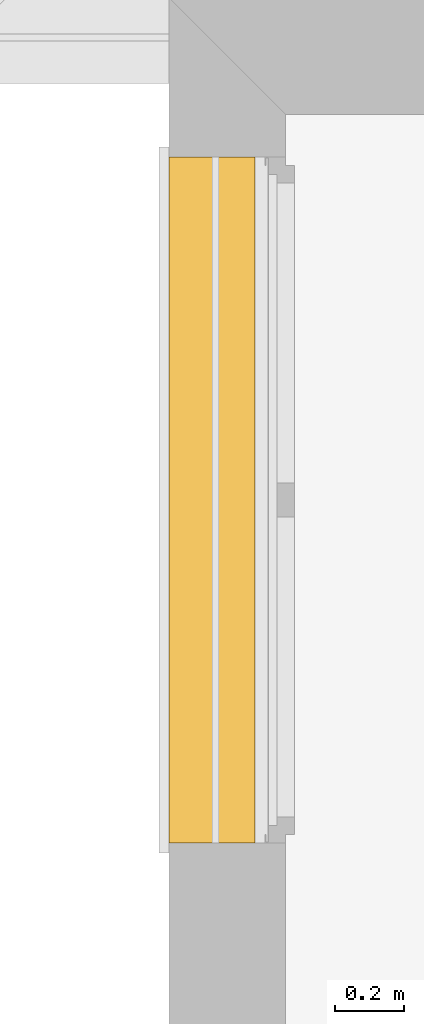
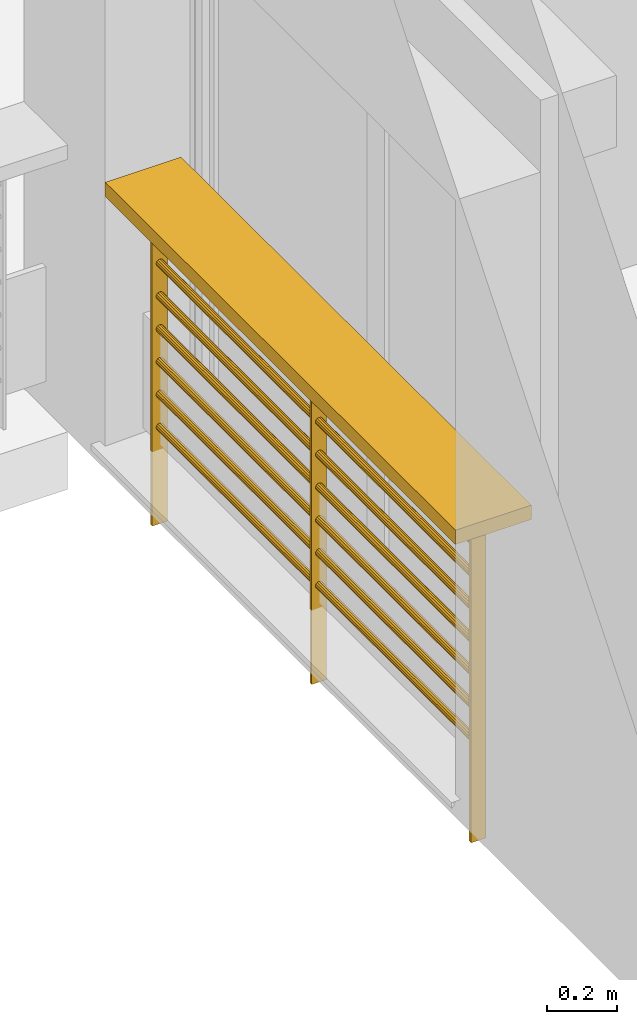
# One storey, part 99 of 164: 1 railing.
"""IFC2X3 building model written with IfcOpenShell, lengths in millimetres."""

from ifc_helpers import new_model, entity, si_unit, converted_unit, derived_unit, money_unit, direction, frame, origin_with_axes, place, context, subcontext, project, spatial, faceted_brep, source, transform, mapped, type_object, element, save


model = new_model("IFC2X3")

# Units and contexts
model_context = context("Model", 3, precision=0.01, world=origin_with_axes(), true_north=direction((0.0, 1.0)))
body_context = subcontext(model_context, "Body", "Model", "MODEL_VIEW")
ifc_project = project(units=[si_unit("LENGTHUNIT", "METRE", prefix="MILLI"), si_unit("AREAUNIT", "SQUARE_METRE"), si_unit("VOLUMEUNIT", "CUBIC_METRE"), converted_unit("PLANEANGLEUNIT", "DEGREE", entity("IfcPlaneAngleMeasure", 0.0174532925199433), si_unit("PLANEANGLEUNIT", "RADIAN"), dimensions=[0, 0, 0, 0, 0, 0, 0]), money_unit("USD"), converted_unit("TIMEUNIT", "Year", entity("IfcTimeMeasure", 31557600.0), si_unit("TIMEUNIT", "SECOND"), dimensions=[0, 0, 1, 0, 0, 0, 0]), si_unit("MASSUNIT", "GRAM", prefix="KILO"), si_unit("THERMODYNAMICTEMPERATUREUNIT", "DEGREE_CELSIUS"), si_unit("LUMINOUSINTENSITYUNIT", "LUMEN"), si_unit("ENERGYUNIT", "JOULE", prefix="MEGA"), derived_unit("THERMALCONDUCTANCEUNIT", [(si_unit("POWERUNIT", "WATT"), 1), (si_unit("LENGTHUNIT", "METRE"), -1), (si_unit("THERMODYNAMICTEMPERATUREUNIT", "KELVIN"), -1)]), derived_unit("SPECIFICHEATCAPACITYUNIT", [(si_unit("ENERGYUNIT", "JOULE"), 1), (si_unit("MASSUNIT", "GRAM", prefix="KILO"), -1), (si_unit("THERMODYNAMICTEMPERATUREUNIT", "KELVIN"), -1)]), derived_unit("MASSDENSITYUNIT", [(si_unit("MASSUNIT", "GRAM", prefix="KILO"), 1), (si_unit("VOLUMEUNIT", "CUBIC_METRE"), -1)])], contexts=[model_context])

# Site, building, storey
site_placement = place(None, origin_with_axes())
site = spatial("IfcSite", under=ifc_project, at=site_placement, Name="Site", CompositionType="ELEMENT")
building_placement = place(site_placement, origin_with_axes())
building = spatial("IfcBuilding", under=site, at=building_placement, Name="Bâtiment", CompositionType="ELEMENT")
storey_placement = place(building_placement, frame((0.0, 0.0, 5750.0), z_axis=(0.0, 0.0, 1.0), x_axis=(1.0, 0.0, 0.0)))
storey = spatial("IfcBuildingStorey", under=building, at=storey_placement, Name="Etage1", CompositionType="ELEMENT", Elevation=5750.0)

# Railing
railing_type = type_object("IfcRailingType", Name="Cadre avec câble 01 20", PredefinedType="NOTDEFINED")
shared_shape = source(origin_with_axes(), body_context, "Body", "Brep", [
    faceted_brep([(0.0, 125.0, 950.0), (0.0, -125.0, 950.0), (0.0, -125.0, 1000.0), (0.0, 125.0, 1000.0), (1999.999999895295, 125.0, 950.0), (1999.999999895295, -125.0, 950.0), (1999.999999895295, -125.0, 1000.0), (1999.999999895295, 125.0, 1000.0)], [[[0, 1, 2, 3]], [[0, 4, 5, 1]], [[1, 5, 6, 2]], [[3, 2, 6, 7]], [[4, 0, 3, 7]], [[5, 4, 7, 6]]]),
    faceted_brep([(84.99999999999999, -25.0, -176.0), (95.0, -25.0, -176.0), (95.0, -25.0, 950.0), (84.99999999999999, -25.0, 950.0), (84.99999999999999, 25.0, -176.0), (95.0, 25.0, -176.0), (95.0, 25.0, 950.0), (84.99999999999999, 25.0, 950.0)], [[[0, 1, 2, 3]], [[0, 4, 5, 1]], [[1, 5, 6, 2]], [[3, 2, 6, 7]], [[4, 0, 3, 7]], [[5, 4, 7, 6]]]),
    faceted_brep([(994.9999999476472, -25.0, -176.0), (1004.999999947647, -25.0, -176.0), (1004.999999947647, -25.0, 950.0), (994.9999999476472, -25.0, 950.0), (994.9999999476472, 25.0, -176.0), (1004.999999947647, 25.0, -176.0), (1004.999999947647, 25.0, 950.0), (994.9999999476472, 25.0, 950.0)], [[[0, 1, 2, 3]], [[0, 4, 5, 1]], [[1, 5, 6, 2]], [[3, 2, 6, 7]], [[4, 0, 3, 7]], [[5, 4, 7, 6]]]),
    faceted_brep([(1904.999999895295, -25.0, -176.0), (1914.999999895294, -25.0, -176.0), (1914.999999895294, -25.0, 950.0), (1904.999999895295, -25.0, 950.0), (1904.999999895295, 25.0, -176.0), (1914.999999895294, 25.0, -176.0), (1914.999999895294, 25.0, 950.0), (1904.999999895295, 25.0, 950.0)], [[[0, 1, 2, 3]], [[0, 4, 5, 1]], [[1, 5, 6, 2]], [[3, 2, 6, 7]], [[4, 0, 3, 7]], [[5, 4, 7, 6]]]),
    faceted_brep([(994.9999999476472, 10.82531754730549, 168.7500000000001), (994.9999999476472, 12.5, 162.5000000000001), (95.0, 12.5, 162.5), (95.0, 10.82531754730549, 168.75), (994.9999999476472, 10.82531754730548, 156.2500000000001), (994.9999999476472, 6.250000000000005, 173.3253175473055), (994.9999999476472, 0.0, 175.0000000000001), (994.9999999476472, -6.249999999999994, 173.3253175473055), (994.9999999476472, -10.82531754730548, 168.7500000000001), (994.9999999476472, -12.5, 162.5000000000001), (994.9999999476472, -10.82531754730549, 156.2500000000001), (994.9999999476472, -6.250000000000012, 151.6746824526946), (994.9999999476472, 0.0, 150.0000000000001), (994.9999999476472, 6.249999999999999, 151.6746824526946), (95.0, 10.82531754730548, 156.25), (95.0, 6.249999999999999, 151.6746824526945), (95.0, 0.0, 150.0), (95.0, -6.250000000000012, 151.6746824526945), (95.0, -10.82531754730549, 156.25), (95.0, -12.5, 162.5), (95.0, -10.82531754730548, 168.75), (95.0, -6.249999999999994, 173.3253175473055), (95.0, 0.0, 175.0), (95.0, 6.250000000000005, 173.3253175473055)], [[[0, 1, 2, 3]], [[4, 1, 0, 5, 6, 7, 8, 9, 10, 11, 12, 13]], [[1, 4, 14, 2]], [[3, 2, 14, 15, 16, 17, 18, 19, 20, 21, 22, 23]], [[5, 0, 3, 23]], [[6, 5, 23, 22]], [[7, 6, 22, 21]], [[8, 7, 21, 20]], [[9, 8, 20, 19]], [[10, 9, 19, 18]], [[11, 10, 18, 17]], [[12, 11, 17, 16]], [[13, 12, 16, 15]], [[4, 13, 15, 14]]]),
    faceted_brep([(1004.999999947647, 10.82531754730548, 156.2500000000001), (1004.999999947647, 12.5, 162.5000000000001), (1904.999999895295, 12.5, 162.5000000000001), (1904.999999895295, 10.82531754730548, 156.2500000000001), (1004.999999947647, 10.82531754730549, 168.7500000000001), (1004.999999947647, 6.249999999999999, 151.6746824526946), (1004.999999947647, 0.0, 150.0000000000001), (1004.999999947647, -6.250000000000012, 151.6746824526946), (1004.999999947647, -10.82531754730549, 156.2500000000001), (1004.999999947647, -12.5, 162.5000000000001), (1004.999999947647, -10.82531754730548, 168.7500000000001), (1004.999999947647, -6.249999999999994, 173.3253175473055), (1004.999999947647, 0.0, 175.0000000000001), (1004.999999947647, 6.250000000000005, 173.3253175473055), (1904.999999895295, 10.82531754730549, 168.7500000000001), (1904.999999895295, 6.250000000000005, 173.3253175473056), (1904.999999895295, 0.0, 175.0000000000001), (1904.999999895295, -6.249999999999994, 173.3253175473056), (1904.999999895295, -10.82531754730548, 168.7500000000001), (1904.999999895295, -12.5, 162.5000000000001), (1904.999999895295, -10.82531754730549, 156.2500000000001), (1904.999999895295, -6.250000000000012, 151.6746824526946), (1904.999999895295, 0.0, 150.0000000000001), (1904.999999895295, 6.249999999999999, 151.6746824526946)], [[[0, 1, 2, 3]], [[4, 1, 0, 5, 6, 7, 8, 9, 10, 11, 12, 13]], [[1, 4, 14, 2]], [[3, 2, 14, 15, 16, 17, 18, 19, 20, 21, 22, 23]], [[5, 0, 3, 23]], [[6, 5, 23, 22]], [[7, 6, 22, 21]], [[8, 7, 21, 20]], [[9, 8, 20, 19]], [[10, 9, 19, 18]], [[11, 10, 18, 17]], [[12, 11, 17, 16]], [[13, 12, 16, 15]], [[4, 13, 15, 14]]]),
    faceted_brep([(994.9999999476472, 10.82531754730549, 283.0357142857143), (994.9999999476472, 12.5, 276.7857142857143), (95.0, 12.5, 276.7857142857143), (95.0, 10.82531754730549, 283.0357142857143), (994.9999999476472, 10.82531754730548, 270.5357142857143), (994.9999999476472, 6.250000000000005, 287.6110318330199), (994.9999999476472, 0.0, 289.2857142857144), (994.9999999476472, -6.249999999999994, 287.6110318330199), (994.9999999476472, -10.82531754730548, 283.0357142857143), (994.9999999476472, -12.5, 276.7857142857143), (994.9999999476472, -10.82531754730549, 270.5357142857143), (994.9999999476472, -6.250000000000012, 265.9603967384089), (994.9999999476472, 0.0, 264.2857142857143), (994.9999999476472, 6.249999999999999, 265.9603967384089), (95.0, 10.82531754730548, 270.5357142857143), (95.0, 6.249999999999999, 265.9603967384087), (95.0, 0.0, 264.2857142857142), (95.0, -6.250000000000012, 265.9603967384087), (95.0, -10.82531754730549, 270.5357142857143), (95.0, -12.5, 276.7857142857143), (95.0, -10.82531754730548, 283.0357142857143), (95.0, -6.249999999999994, 287.6110318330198), (95.0, 0.0, 289.2857142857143), (95.0, 6.250000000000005, 287.6110318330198)], [[[0, 1, 2, 3]], [[4, 1, 0, 5, 6, 7, 8, 9, 10, 11, 12, 13]], [[1, 4, 14, 2]], [[3, 2, 14, 15, 16, 17, 18, 19, 20, 21, 22, 23]], [[5, 0, 3, 23]], [[6, 5, 23, 22]], [[7, 6, 22, 21]], [[8, 7, 21, 20]], [[9, 8, 20, 19]], [[10, 9, 19, 18]], [[11, 10, 18, 17]], [[12, 11, 17, 16]], [[13, 12, 16, 15]], [[4, 13, 15, 14]]]),
    faceted_brep([(1004.999999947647, 10.82531754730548, 270.5357142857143), (1004.999999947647, 12.5, 276.7857142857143), (1904.999999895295, 12.5, 276.7857142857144), (1904.999999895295, 10.82531754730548, 270.5357142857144), (1004.999999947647, 10.82531754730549, 283.0357142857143), (1004.999999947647, 6.249999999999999, 265.9603967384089), (1004.999999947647, 0.0, 264.2857142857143), (1004.999999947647, -6.250000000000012, 265.9603967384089), (1004.999999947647, -10.82531754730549, 270.5357142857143), (1004.999999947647, -12.5, 276.7857142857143), (1004.999999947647, -10.82531754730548, 283.0357142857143), (1004.999999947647, -6.249999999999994, 287.6110318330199), (1004.999999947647, 0.0, 289.2857142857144), (1004.999999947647, 6.250000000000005, 287.6110318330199), (1904.999999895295, 10.82531754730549, 283.0357142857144), (1904.999999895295, 6.250000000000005, 287.6110318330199), (1904.999999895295, 0.0, 289.2857142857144), (1904.999999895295, -6.249999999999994, 287.6110318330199), (1904.999999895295, -10.82531754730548, 283.0357142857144), (1904.999999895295, -12.5, 276.7857142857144), (1904.999999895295, -10.82531754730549, 270.5357142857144), (1904.999999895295, -6.250000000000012, 265.9603967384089), (1904.999999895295, 0.0, 264.2857142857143), (1904.999999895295, 6.249999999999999, 265.9603967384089)], [[[0, 1, 2, 3]], [[4, 1, 0, 5, 6, 7, 8, 9, 10, 11, 12, 13]], [[1, 4, 14, 2]], [[3, 2, 14, 15, 16, 17, 18, 19, 20, 21, 22, 23]], [[5, 0, 3, 23]], [[6, 5, 23, 22]], [[7, 6, 22, 21]], [[8, 7, 21, 20]], [[9, 8, 20, 19]], [[10, 9, 19, 18]], [[11, 10, 18, 17]], [[12, 11, 17, 16]], [[13, 12, 16, 15]], [[4, 13, 15, 14]]]),
    faceted_brep([(994.9999999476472, 10.82531754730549, 397.3214285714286), (994.9999999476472, 12.5, 391.0714285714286), (95.0, 12.5, 391.0714285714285), (95.0, 10.82531754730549, 397.3214285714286), (994.9999999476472, 10.82531754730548, 384.8214285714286), (994.9999999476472, 6.250000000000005, 401.896746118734), (994.9999999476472, 0.0, 403.5714285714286), (994.9999999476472, -6.249999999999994, 401.896746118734), (994.9999999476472, -10.82531754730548, 397.3214285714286), (994.9999999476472, -12.5, 391.0714285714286), (994.9999999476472, -10.82531754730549, 384.8214285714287), (994.9999999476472, -6.250000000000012, 380.2461110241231), (994.9999999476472, 0.0, 378.5714285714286), (994.9999999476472, 6.249999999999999, 380.2461110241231), (95.0, 10.82531754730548, 384.8214285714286), (95.0, 6.249999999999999, 380.2461110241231), (95.0, 0.0, 378.5714285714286), (95.0, -6.250000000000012, 380.2461110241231), (95.0, -10.82531754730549, 384.8214285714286), (95.0, -12.5, 391.0714285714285), (95.0, -10.82531754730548, 397.3214285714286), (95.0, -6.249999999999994, 401.896746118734), (95.0, 0.0, 403.5714285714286), (95.0, 6.250000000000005, 401.896746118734)], [[[0, 1, 2, 3]], [[4, 1, 0, 5, 6, 7, 8, 9, 10, 11, 12, 13]], [[1, 4, 14, 2]], [[3, 2, 14, 15, 16, 17, 18, 19, 20, 21, 22, 23]], [[5, 0, 3, 23]], [[6, 5, 23, 22]], [[7, 6, 22, 21]], [[8, 7, 21, 20]], [[9, 8, 20, 19]], [[10, 9, 19, 18]], [[11, 10, 18, 17]], [[12, 11, 17, 16]], [[13, 12, 16, 15]], [[4, 13, 15, 14]]]),
    faceted_brep([(1004.999999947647, 10.82531754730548, 384.8214285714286), (1004.999999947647, 12.5, 391.0714285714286), (1904.999999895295, 12.5, 391.0714285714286), (1904.999999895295, 10.82531754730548, 384.8214285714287), (1004.999999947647, 10.82531754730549, 397.3214285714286), (1004.999999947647, 6.249999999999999, 380.2461110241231), (1004.999999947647, 0.0, 378.5714285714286), (1004.999999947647, -6.250000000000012, 380.2461110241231), (1004.999999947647, -10.82531754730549, 384.8214285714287), (1004.999999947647, -12.5, 391.0714285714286), (1004.999999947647, -10.82531754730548, 397.3214285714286), (1004.999999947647, -6.249999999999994, 401.896746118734), (1004.999999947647, 0.0, 403.5714285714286), (1004.999999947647, 6.250000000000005, 401.896746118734), (1904.999999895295, 10.82531754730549, 397.3214285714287), (1904.999999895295, 6.250000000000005, 401.8967461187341), (1904.999999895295, 0.0, 403.5714285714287), (1904.999999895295, -6.249999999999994, 401.8967461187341), (1904.999999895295, -10.82531754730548, 397.3214285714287), (1904.999999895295, -12.5, 391.0714285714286), (1904.999999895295, -10.82531754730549, 384.8214285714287), (1904.999999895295, -6.250000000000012, 380.2461110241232), (1904.999999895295, 0.0, 378.5714285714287), (1904.999999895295, 6.249999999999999, 380.2461110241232)], [[[0, 1, 2, 3]], [[4, 1, 0, 5, 6, 7, 8, 9, 10, 11, 12, 13]], [[1, 4, 14, 2]], [[3, 2, 14, 15, 16, 17, 18, 19, 20, 21, 22, 23]], [[5, 0, 3, 23]], [[6, 5, 23, 22]], [[7, 6, 22, 21]], [[8, 7, 21, 20]], [[9, 8, 20, 19]], [[10, 9, 19, 18]], [[11, 10, 18, 17]], [[12, 11, 17, 16]], [[13, 12, 16, 15]], [[4, 13, 15, 14]]]),
    faceted_brep([(994.9999999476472, 10.82531754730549, 511.6071428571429), (994.9999999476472, 12.5, 505.3571428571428), (95.0, 12.5, 505.3571428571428), (95.0, 10.82531754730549, 511.6071428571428), (994.9999999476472, 10.82531754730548, 499.1071428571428), (994.9999999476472, 6.250000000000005, 516.1824604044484), (994.9999999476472, 0.0, 517.8571428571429), (994.9999999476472, -6.249999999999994, 516.1824604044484), (994.9999999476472, -10.82531754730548, 511.6071428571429), (994.9999999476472, -12.5, 505.3571428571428), (994.9999999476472, -10.82531754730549, 499.1071428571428), (994.9999999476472, -6.250000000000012, 494.5318253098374), (994.9999999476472, 0.0, 492.8571428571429), (994.9999999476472, 6.249999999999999, 494.5318253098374), (95.0, 10.82531754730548, 499.1071428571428), (95.0, 6.249999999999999, 494.5318253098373), (95.0, 0.0, 492.8571428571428), (95.0, -6.250000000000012, 494.5318253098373), (95.0, -10.82531754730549, 499.1071428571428), (95.0, -12.5, 505.3571428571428), (95.0, -10.82531754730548, 511.6071428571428), (95.0, -6.249999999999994, 516.1824604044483), (95.0, 0.0, 517.8571428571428), (95.0, 6.250000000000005, 516.1824604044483)], [[[0, 1, 2, 3]], [[4, 1, 0, 5, 6, 7, 8, 9, 10, 11, 12, 13]], [[1, 4, 14, 2]], [[3, 2, 14, 15, 16, 17, 18, 19, 20, 21, 22, 23]], [[5, 0, 3, 23]], [[6, 5, 23, 22]], [[7, 6, 22, 21]], [[8, 7, 21, 20]], [[9, 8, 20, 19]], [[10, 9, 19, 18]], [[11, 10, 18, 17]], [[12, 11, 17, 16]], [[13, 12, 16, 15]], [[4, 13, 15, 14]]]),
    faceted_brep([(1004.999999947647, 10.82531754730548, 499.1071428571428), (1004.999999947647, 12.5, 505.3571428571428), (1904.999999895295, 12.5, 505.3571428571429), (1904.999999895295, 10.82531754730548, 499.1071428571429), (1004.999999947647, 10.82531754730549, 511.6071428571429), (1004.999999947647, 6.249999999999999, 494.5318253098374), (1004.999999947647, 0.0, 492.8571428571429), (1004.999999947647, -6.250000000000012, 494.5318253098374), (1004.999999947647, -10.82531754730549, 499.1071428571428), (1004.999999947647, -12.5, 505.3571428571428), (1004.999999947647, -10.82531754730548, 511.6071428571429), (1004.999999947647, -6.249999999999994, 516.1824604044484), (1004.999999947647, 0.0, 517.8571428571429), (1004.999999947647, 6.250000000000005, 516.1824604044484), (1904.999999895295, 10.82531754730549, 511.6071428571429), (1904.999999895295, 6.250000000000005, 516.1824604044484), (1904.999999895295, 0.0, 517.8571428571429), (1904.999999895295, -6.249999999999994, 516.1824604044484), (1904.999999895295, -10.82531754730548, 511.6071428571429), (1904.999999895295, -12.5, 505.3571428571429), (1904.999999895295, -10.82531754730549, 499.1071428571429), (1904.999999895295, -6.250000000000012, 494.5318253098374), (1904.999999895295, 0.0, 492.8571428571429), (1904.999999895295, 6.249999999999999, 494.5318253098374)], [[[0, 1, 2, 3]], [[4, 1, 0, 5, 6, 7, 8, 9, 10, 11, 12, 13]], [[1, 4, 14, 2]], [[3, 2, 14, 15, 16, 17, 18, 19, 20, 21, 22, 23]], [[5, 0, 3, 23]], [[6, 5, 23, 22]], [[7, 6, 22, 21]], [[8, 7, 21, 20]], [[9, 8, 20, 19]], [[10, 9, 19, 18]], [[11, 10, 18, 17]], [[12, 11, 17, 16]], [[13, 12, 16, 15]], [[4, 13, 15, 14]]]),
    faceted_brep([(994.9999999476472, 10.82531754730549, 625.8928571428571), (994.9999999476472, 12.5, 619.6428571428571), (95.0, 12.5, 619.642857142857), (95.0, 10.82531754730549, 625.892857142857), (994.9999999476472, 10.82531754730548, 613.3928571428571), (994.9999999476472, 6.250000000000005, 630.4681746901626), (994.9999999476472, 0.0, 632.1428571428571), (994.9999999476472, -6.249999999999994, 630.4681746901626), (994.9999999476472, -10.82531754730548, 625.8928571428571), (994.9999999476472, -12.5, 619.6428571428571), (994.9999999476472, -10.82531754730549, 613.3928571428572), (994.9999999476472, -6.250000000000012, 608.8175395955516), (994.9999999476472, 0.0, 607.1428571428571), (994.9999999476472, 6.249999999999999, 608.8175395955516), (95.0, 10.82531754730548, 613.3928571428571), (95.0, 6.249999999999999, 608.8175395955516), (95.0, 0.0, 607.1428571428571), (95.0, -6.250000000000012, 608.8175395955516), (95.0, -10.82531754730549, 613.3928571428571), (95.0, -12.5, 619.642857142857), (95.0, -10.82531754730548, 625.892857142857), (95.0, -6.249999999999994, 630.4681746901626), (95.0, 0.0, 632.1428571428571), (95.0, 6.250000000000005, 630.4681746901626)], [[[0, 1, 2, 3]], [[4, 1, 0, 5, 6, 7, 8, 9, 10, 11, 12, 13]], [[1, 4, 14, 2]], [[3, 2, 14, 15, 16, 17, 18, 19, 20, 21, 22, 23]], [[5, 0, 3, 23]], [[6, 5, 23, 22]], [[7, 6, 22, 21]], [[8, 7, 21, 20]], [[9, 8, 20, 19]], [[10, 9, 19, 18]], [[11, 10, 18, 17]], [[12, 11, 17, 16]], [[13, 12, 16, 15]], [[4, 13, 15, 14]]]),
    faceted_brep([(1004.999999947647, 10.82531754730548, 613.3928571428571), (1004.999999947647, 12.5, 619.6428571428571), (1904.999999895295, 12.5, 619.6428571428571), (1904.999999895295, 10.82531754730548, 613.3928571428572), (1004.999999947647, 10.82531754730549, 625.8928571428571), (1004.999999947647, 6.249999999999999, 608.8175395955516), (1004.999999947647, 0.0, 607.1428571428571), (1004.999999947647, -6.250000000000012, 608.8175395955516), (1004.999999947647, -10.82531754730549, 613.3928571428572), (1004.999999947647, -12.5, 619.6428571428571), (1004.999999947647, -10.82531754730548, 625.8928571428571), (1004.999999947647, -6.249999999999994, 630.4681746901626), (1004.999999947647, 0.0, 632.1428571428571), (1004.999999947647, 6.250000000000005, 630.4681746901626), (1904.999999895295, 10.82531754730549, 625.8928571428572), (1904.999999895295, 6.250000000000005, 630.4681746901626), (1904.999999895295, 0.0, 632.1428571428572), (1904.999999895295, -6.249999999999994, 630.4681746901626), (1904.999999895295, -10.82531754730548, 625.8928571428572), (1904.999999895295, -12.5, 619.6428571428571), (1904.999999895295, -10.82531754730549, 613.3928571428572), (1904.999999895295, -6.250000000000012, 608.8175395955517), (1904.999999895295, 0.0, 607.1428571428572), (1904.999999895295, 6.249999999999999, 608.8175395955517)], [[[0, 1, 2, 3]], [[4, 1, 0, 5, 6, 7, 8, 9, 10, 11, 12, 13]], [[1, 4, 14, 2]], [[3, 2, 14, 15, 16, 17, 18, 19, 20, 21, 22, 23]], [[5, 0, 3, 23]], [[6, 5, 23, 22]], [[7, 6, 22, 21]], [[8, 7, 21, 20]], [[9, 8, 20, 19]], [[10, 9, 19, 18]], [[11, 10, 18, 17]], [[12, 11, 17, 16]], [[13, 12, 16, 15]], [[4, 13, 15, 14]]]),
    faceted_brep([(994.9999999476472, 10.82531754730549, 740.1785714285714), (994.9999999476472, 12.5, 733.9285714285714), (95.0, 12.5, 733.9285714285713), (95.0, 10.82531754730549, 740.1785714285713), (994.9999999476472, 10.82531754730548, 727.6785714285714), (994.9999999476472, 6.250000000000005, 744.7538889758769), (994.9999999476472, 0.0, 746.4285714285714), (994.9999999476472, -6.249999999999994, 744.7538889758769), (994.9999999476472, -10.82531754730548, 740.1785714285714), (994.9999999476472, -12.5, 733.9285714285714), (994.9999999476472, -10.82531754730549, 727.6785714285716), (994.9999999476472, -6.250000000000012, 723.1032538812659), (994.9999999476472, 0.0, 721.4285714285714), (994.9999999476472, 6.249999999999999, 723.1032538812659), (95.0, 10.82531754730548, 727.6785714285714), (95.0, 6.249999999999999, 723.1032538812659), (95.0, 0.0, 721.4285714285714), (95.0, -6.250000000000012, 723.1032538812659), (95.0, -10.82531754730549, 727.6785714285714), (95.0, -12.5, 733.9285714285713), (95.0, -10.82531754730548, 740.1785714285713), (95.0, -6.249999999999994, 744.7538889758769), (95.0, 0.0, 746.4285714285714), (95.0, 6.250000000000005, 744.7538889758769)], [[[0, 1, 2, 3]], [[4, 1, 0, 5, 6, 7, 8, 9, 10, 11, 12, 13]], [[1, 4, 14, 2]], [[3, 2, 14, 15, 16, 17, 18, 19, 20, 21, 22, 23]], [[5, 0, 3, 23]], [[6, 5, 23, 22]], [[7, 6, 22, 21]], [[8, 7, 21, 20]], [[9, 8, 20, 19]], [[10, 9, 19, 18]], [[11, 10, 18, 17]], [[12, 11, 17, 16]], [[13, 12, 16, 15]], [[4, 13, 15, 14]]]),
    faceted_brep([(1004.999999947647, 10.82531754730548, 727.6785714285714), (1004.999999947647, 12.5, 733.9285714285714), (1904.999999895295, 12.5, 733.9285714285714), (1904.999999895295, 10.82531754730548, 727.6785714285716), (1004.999999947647, 10.82531754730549, 740.1785714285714), (1004.999999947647, 6.249999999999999, 723.1032538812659), (1004.999999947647, 0.0, 721.4285714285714), (1004.999999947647, -6.250000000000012, 723.1032538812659), (1004.999999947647, -10.82531754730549, 727.6785714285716), (1004.999999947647, -12.5, 733.9285714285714), (1004.999999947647, -10.82531754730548, 740.1785714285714), (1004.999999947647, -6.249999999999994, 744.7538889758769), (1004.999999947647, 0.0, 746.4285714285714), (1004.999999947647, 6.250000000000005, 744.7538889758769), (1904.999999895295, 10.82531754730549, 740.1785714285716), (1904.999999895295, 6.250000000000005, 744.753888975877), (1904.999999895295, 0.0, 746.4285714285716), (1904.999999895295, -6.249999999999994, 744.753888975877), (1904.999999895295, -10.82531754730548, 740.1785714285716), (1904.999999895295, -12.5, 733.9285714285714), (1904.999999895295, -10.82531754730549, 727.6785714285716), (1904.999999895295, -6.250000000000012, 723.103253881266), (1904.999999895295, 0.0, 721.4285714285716), (1904.999999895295, 6.249999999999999, 723.103253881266)], [[[0, 1, 2, 3]], [[4, 1, 0, 5, 6, 7, 8, 9, 10, 11, 12, 13]], [[1, 4, 14, 2]], [[3, 2, 14, 15, 16, 17, 18, 19, 20, 21, 22, 23]], [[5, 0, 3, 23]], [[6, 5, 23, 22]], [[7, 6, 22, 21]], [[8, 7, 21, 20]], [[9, 8, 20, 19]], [[10, 9, 19, 18]], [[11, 10, 18, 17]], [[12, 11, 17, 16]], [[13, 12, 16, 15]], [[4, 13, 15, 14]]]),
    faceted_brep([(994.9999999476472, 10.82531754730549, 854.4642857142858), (994.9999999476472, 12.5, 848.2142857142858), (95.0, 12.5, 848.2142857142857), (95.0, 10.82531754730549, 854.4642857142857), (994.9999999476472, 10.82531754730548, 841.9642857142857), (994.9999999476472, 6.250000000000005, 859.0396032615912), (994.9999999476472, 0.0, 860.7142857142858), (994.9999999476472, -6.249999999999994, 859.0396032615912), (994.9999999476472, -10.82531754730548, 854.4642857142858), (994.9999999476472, -12.5, 848.2142857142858), (994.9999999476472, -10.82531754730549, 841.9642857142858), (994.9999999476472, -6.250000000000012, 837.3889681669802), (994.9999999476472, 0.0, 835.7142857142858), (994.9999999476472, 6.249999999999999, 837.3889681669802), (95.0, 10.82531754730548, 841.9642857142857), (95.0, 6.249999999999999, 837.3889681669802), (95.0, 0.0, 835.7142857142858), (95.0, -6.250000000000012, 837.3889681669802), (95.0, -10.82531754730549, 841.9642857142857), (95.0, -12.5, 848.2142857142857), (95.0, -10.82531754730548, 854.4642857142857), (95.0, -6.249999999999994, 859.0396032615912), (95.0, 0.0, 860.7142857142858), (95.0, 6.250000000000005, 859.0396032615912)], [[[0, 1, 2, 3]], [[4, 1, 0, 5, 6, 7, 8, 9, 10, 11, 12, 13]], [[1, 4, 14, 2]], [[3, 2, 14, 15, 16, 17, 18, 19, 20, 21, 22, 23]], [[5, 0, 3, 23]], [[6, 5, 23, 22]], [[7, 6, 22, 21]], [[8, 7, 21, 20]], [[9, 8, 20, 19]], [[10, 9, 19, 18]], [[11, 10, 18, 17]], [[12, 11, 17, 16]], [[13, 12, 16, 15]], [[4, 13, 15, 14]]]),
    faceted_brep([(1004.999999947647, 10.82531754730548, 841.9642857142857), (1004.999999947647, 12.5, 848.2142857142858), (1904.999999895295, 12.5, 848.2142857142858), (1904.999999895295, 10.82531754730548, 841.9642857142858), (1004.999999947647, 10.82531754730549, 854.4642857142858), (1004.999999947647, 6.249999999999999, 837.3889681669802), (1004.999999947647, 0.0, 835.7142857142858), (1004.999999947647, -6.250000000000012, 837.3889681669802), (1004.999999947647, -10.82531754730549, 841.9642857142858), (1004.999999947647, -12.5, 848.2142857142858), (1004.999999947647, -10.82531754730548, 854.4642857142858), (1004.999999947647, -6.249999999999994, 859.0396032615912), (1004.999999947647, 0.0, 860.7142857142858), (1004.999999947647, 6.250000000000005, 859.0396032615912), (1904.999999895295, 10.82531754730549, 854.4642857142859), (1904.999999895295, 6.250000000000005, 859.0396032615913), (1904.999999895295, 0.0, 860.7142857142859), (1904.999999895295, -6.249999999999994, 859.0396032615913), (1904.999999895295, -10.82531754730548, 854.4642857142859), (1904.999999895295, -12.5, 848.2142857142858), (1904.999999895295, -10.82531754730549, 841.9642857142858), (1904.999999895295, -6.250000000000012, 837.3889681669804), (1904.999999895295, 0.0, 835.7142857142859), (1904.999999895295, 6.249999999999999, 837.3889681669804)], [[[0, 1, 2, 3]], [[4, 1, 0, 5, 6, 7, 8, 9, 10, 11, 12, 13]], [[1, 4, 14, 2]], [[3, 2, 14, 15, 16, 17, 18, 19, 20, 21, 22, 23]], [[5, 0, 3, 23]], [[6, 5, 23, 22]], [[7, 6, 22, 21]], [[8, 7, 21, 20]], [[9, 8, 20, 19]], [[10, 9, 19, 18]], [[11, 10, 18, 17]], [[12, 11, 17, 16]], [[13, 12, 16, 15]], [[4, 13, 15, 14]]]),
])
railing_placement = place(storey_placement, frame((2216759.260670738, -609631.6055812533, 0.0), z_axis=(0.0, 0.0, 1.0), x_axis=(0.0, 1.0, 0.0)))
element("IfcRailing", 1, at=railing_placement, inside=storey, type_object=railing_type, Name="Obj.-002", PredefinedType="NOTDEFINED", context=body_context, shape_type="MappedRepresentation", body=[
    mapped(shared_shape, transform((0.0, 0.0, 0.0))),
])

save(model, "model.ifc")
